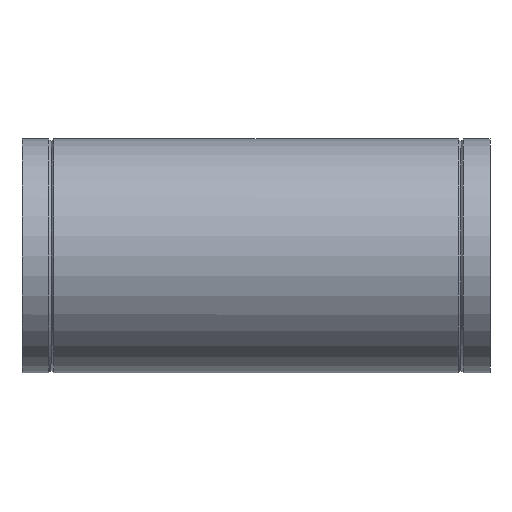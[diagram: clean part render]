
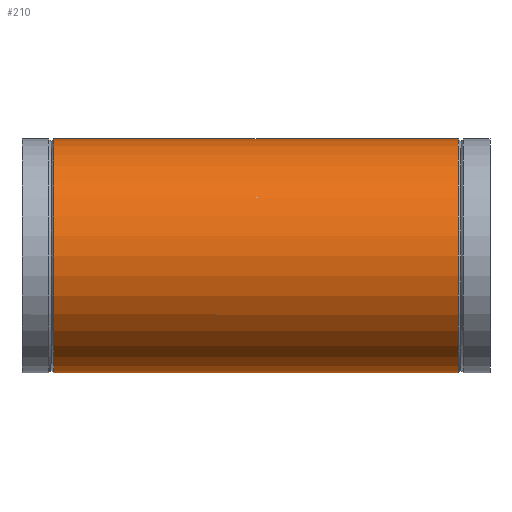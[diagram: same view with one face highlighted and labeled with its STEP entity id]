
A CAD part, left-side view. The second image highlights one B-rep face of the part: STEP entity #210.
In plain terms, the highlighted cylindrical face has radius 100 mm (diameter 200 mm), a full revolution.
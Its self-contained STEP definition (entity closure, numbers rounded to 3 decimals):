
#15=ELLIPSE($,#234,139.606,100.);
#16=ELLIPSE($,#235,143.309,100.);
#19=CYLINDRICAL_SURFACE($,#232,100.);
#28=FACE_BOUND($,#65,.T.);
#29=FACE_BOUND($,#66,.T.);
#50=FACE_OUTER_BOUND($,#64,.T.);
#64=EDGE_LOOP($,(#151));
#65=EDGE_LOOP($,(#152,#153));
#66=EDGE_LOOP($,(#154));
#96=CIRCLE($,#231,100.);
#97=CIRCLE($,#233,100.);
#111=VERTEX_POINT($,#341);
#112=VERTEX_POINT($,#344);
#113=VERTEX_POINT($,#346);
#114=VERTEX_POINT($,#347);
#130=EDGE_CURVE($,#111,#111,#96,.T.);
#131=EDGE_CURVE($,#112,#112,#97,.T.);
#132=EDGE_CURVE($,#113,#114,#15,.T.);
#133=EDGE_CURVE($,#114,#113,#16,.T.);
#151=ORIENTED_EDGE($,*,*,#131,.T.);
#152=ORIENTED_EDGE($,*,*,#132,.T.);
#153=ORIENTED_EDGE($,*,*,#133,.T.);
#154=ORIENTED_EDGE($,*,*,#130,.T.);
#210=ADVANCED_FACE($,(#50,#28,#29),#19,.T.);
#231=AXIS2_PLACEMENT_3D($,#342,#272,#273);
#232=AXIS2_PLACEMENT_3D($,#343,#274,#275);
#233=AXIS2_PLACEMENT_3D($,#345,#276,#277);
#234=AXIS2_PLACEMENT_3D($,#348,#278,#279);
#235=AXIS2_PLACEMENT_3D($,#349,#280,#281);
#272=DIRECTION('center_axis',(0.,-1.,0.));
#273=DIRECTION('ref_axis',(1.,0.,0.));
#274=DIRECTION('center_axis',(0.,1.,0.));
#275=DIRECTION('ref_axis',(1.,0.,0.));
#276=DIRECTION('center_axis',(0.,1.,0.));
#277=DIRECTION('ref_axis',(1.,0.,0.));
#278=DIRECTION('center_axis',(-0.698,-0.716,0.));
#279=DIRECTION('ref_axis',(0.716,-0.698,0.));
#280=DIRECTION('center_axis',(-0.716,0.698,0.));
#281=DIRECTION('ref_axis',(-0.698,-0.716,0.));
#341=CARTESIAN_POINT('',(100.,373.,0.));
#342=CARTESIAN_POINT('Origin',(0.,373.,0.));
#343=CARTESIAN_POINT('Origin',(0.,0.,0.));
#344=CARTESIAN_POINT('',(-100.,27.,0.));
#345=CARTESIAN_POINT('Origin',(0.,27.,0.));
#346=CARTESIAN_POINT('',(0.,200.,-100.));
#347=CARTESIAN_POINT('',(0.,200.,100.));
#348=CARTESIAN_POINT('Origin',(0.,200.,0.));
#349=CARTESIAN_POINT('Origin',(0.,200.,0.));
